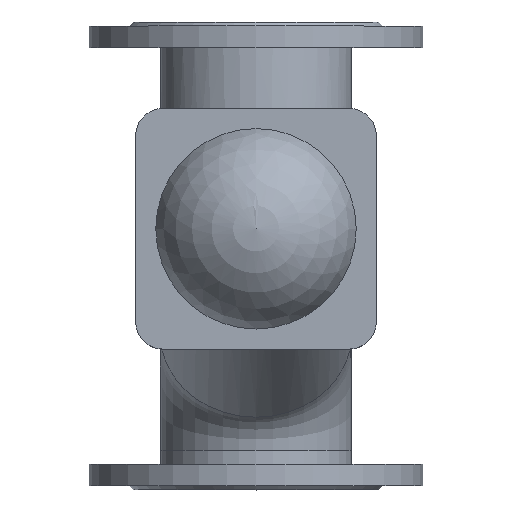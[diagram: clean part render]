
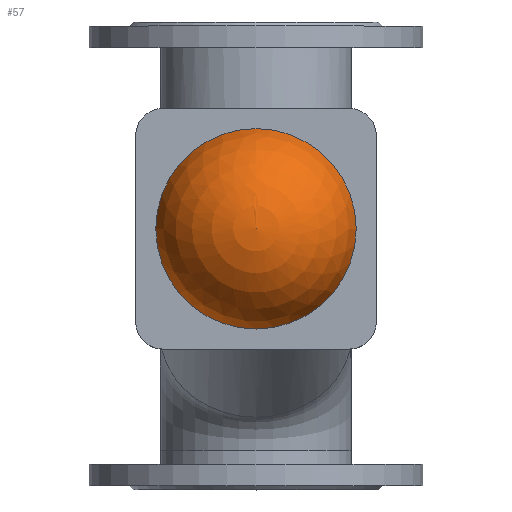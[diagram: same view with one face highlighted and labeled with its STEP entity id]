
A CAD part, top view. The second image highlights one B-rep face of the part: STEP entity #57.
In plain terms, the highlighted spherical face has radius 76.875 mm.
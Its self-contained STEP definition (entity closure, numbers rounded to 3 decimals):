
#57=ADVANCED_FACE('',(#687),#689,.T.);
#687=FACE_OUTER_BOUND('',#688,.T.);
#688=EDGE_LOOP('',(#2169));
#689=SPHERICAL_SURFACE('',#690,76.875);
#690=AXIS2_PLACEMENT_3D('',#691,#692,#693);
#691=CARTESIAN_POINT('',(0.,20.,185.125));
#692=DIRECTION('',(0.,0.,-1.));
#693=DIRECTION('',(0.,1.,0.));
#2169=ORIENTED_EDGE('',*,*,#2466,.T.);
#2466=EDGE_CURVE('',#2623,#2623,#2624,.F.);
#2623=VERTEX_POINT('',#2907);
#2624=CIRCLE('',#2908,75.);
#2907=CARTESIAN_POINT('',(0.,95.,202.));
#2908=AXIS2_PLACEMENT_3D('',#2909,#2910,#2911);
#2909=CARTESIAN_POINT('',(0.,20.,202.));
#2910=DIRECTION('',(0.,0.,-1.));
#2911=DIRECTION('',(0.,1.,0.));
